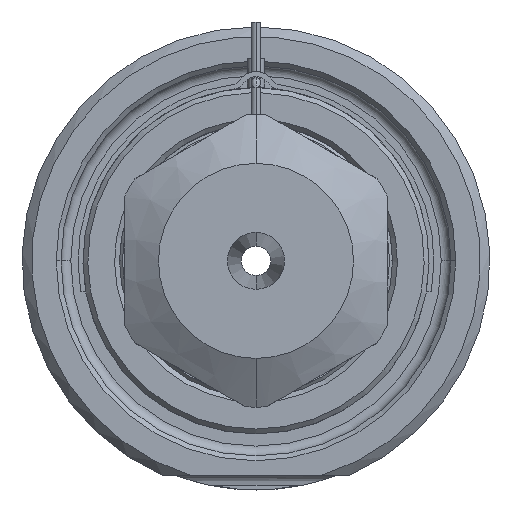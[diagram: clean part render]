
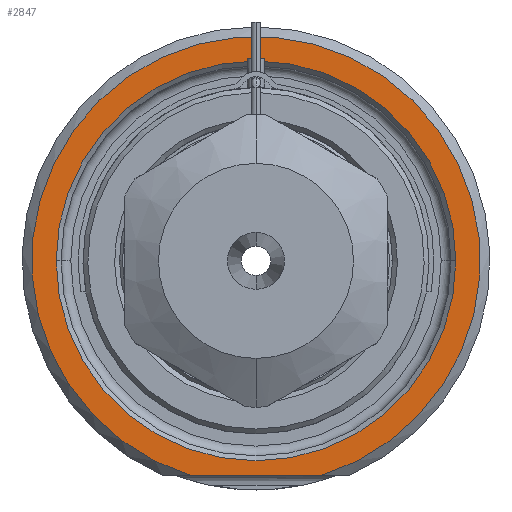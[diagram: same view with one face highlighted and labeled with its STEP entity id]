
A CAD part, front view. The second image highlights one B-rep face of the part: STEP entity #2847.
In plain terms, the highlighted planar face has unit normal (0, -1, 0).
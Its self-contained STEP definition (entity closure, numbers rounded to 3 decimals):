
#1=DIRECTION('',(1.,0.,0.));
#2=VECTOR('',#1,13.416);
#3=CARTESIAN_POINT('',(-6.708,0.,-22.));
#4=LINE('',#3,#2);
#5=CARTESIAN_POINT('',(0.,0.,0.));
#6=DIRECTION('',(0.,1.,0.));
#7=DIRECTION('',(-1.,0.,0.));
#8=AXIS2_PLACEMENT_3D('',#5,#6,#7);
#10=CARTESIAN_POINT('',(0.,0.,0.));
#11=DIRECTION('',(0.,1.,0.));
#12=DIRECTION('',(1.,0.,0.));
#13=AXIS2_PLACEMENT_3D('',#10,#11,#12);
#121=CARTESIAN_POINT('',(0.,0.,0.));
#122=DIRECTION('',(0.,-1.,0.));
#123=DIRECTION('',(0.292,0.,-0.957));
#124=AXIS2_PLACEMENT_3D('',#121,#122,#123);
#2371=CARTESIAN_POINT('',(-20.5,0.,0.));
#2372=CARTESIAN_POINT('',(20.5,0.,0.));
#2373=VERTEX_POINT('',#2371);
#2374=VERTEX_POINT('',#2372);
#2411=CARTESIAN_POINT('',(-6.708,0.,-22.));
#2412=CARTESIAN_POINT('',(6.708,0.,-22.));
#2413=VERTEX_POINT('',#2411);
#2414=VERTEX_POINT('',#2412);
#2830=CARTESIAN_POINT('',(0.,0.,0.));
#2831=DIRECTION('',(0.,-1.,0.));
#2832=DIRECTION('',(1.,0.,0.));
#2833=AXIS2_PLACEMENT_3D('',#2830,#2831,#2832);
#2834=PLANE('',#2833);
#2836=ORIENTED_EDGE('',*,*,#2835,.F.);
#2838=ORIENTED_EDGE('',*,*,#2837,.F.);
#2839=EDGE_LOOP('',(#2836,#2838));
#2840=FACE_OUTER_BOUND('',#2839,.F.);
#2842=ORIENTED_EDGE('',*,*,#2841,.F.);
#2844=ORIENTED_EDGE('',*,*,#2843,.F.);
#2845=EDGE_LOOP('',(#2842,#2844));
#2846=FACE_BOUND('',#2845,.F.);
#2847=ADVANCED_FACE('',(#2840,#2846),#2834,.T.);
#9=CIRCLE('',#8,20.5);
#14=CIRCLE('',#13,20.5);
#125=CIRCLE('',#124,23.);
#2835=EDGE_CURVE('',#2413,#2414,#4,.T.);
#2837=EDGE_CURVE('',#2414,#2413,#125,.T.);
#2841=EDGE_CURVE('',#2373,#2374,#9,.T.);
#2843=EDGE_CURVE('',#2374,#2373,#14,.T.);
